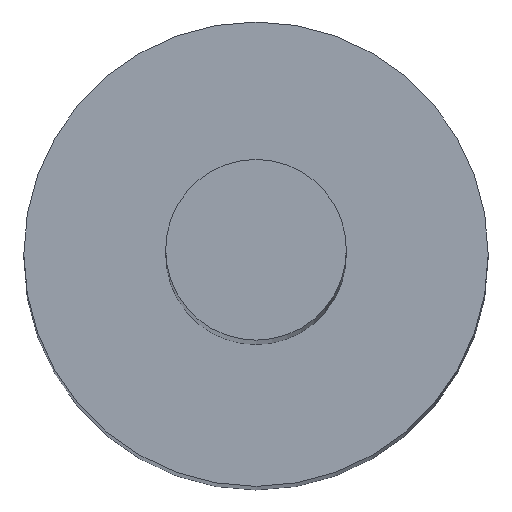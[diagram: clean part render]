
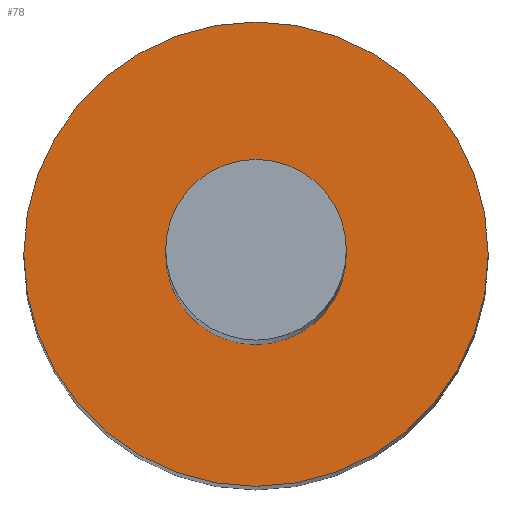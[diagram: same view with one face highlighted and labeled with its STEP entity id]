
A CAD part, top view. The second image highlights one B-rep face of the part: STEP entity #78.
In plain terms, the highlighted planar face has unit normal (0, 0, 1).
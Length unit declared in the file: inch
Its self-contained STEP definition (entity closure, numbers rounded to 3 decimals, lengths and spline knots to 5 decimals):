
#25 = ORIENTED_EDGE ( 'NONE', *, *, #55, .F. ) ;
#45 = ORIENTED_EDGE ( 'NONE', *, *, #188, .T. ) ;
#46 = ORIENTED_EDGE ( 'NONE', *, *, #47, .T. ) ;
#47 = EDGE_CURVE ( 'NONE', #65, #156, #148, .T. ) ;
#48 = EDGE_LOOP ( 'NONE', ( #25, #56 ) ) ;
#55 = EDGE_CURVE ( 'NONE', #74, #77, #228, .T. ) ;
#56 = ORIENTED_EDGE ( 'NONE', *, *, #73, .F. ) ;
#65 = VERTEX_POINT ( 'NONE', #122 ) ;
#71 = EDGE_LOOP ( 'NONE', ( #45, #46 ) ) ;
#73 = EDGE_CURVE ( 'NONE', #77, #74, #221, .T. ) ;
#74 = VERTEX_POINT ( 'NONE', #217 ) ;
#77 = VERTEX_POINT ( 'NONE', #212 ) ;
#78 = ADVANCED_FACE ( 'NONE', ( #211, #210 ), #209, .F. ) ;
#93 = DIRECTION ( 'NONE',  ( 1., 0., 0. ) ) ;
#94 = DIRECTION ( 'NONE',  ( 0., 0., 1. ) ) ;
#95 = CARTESIAN_POINT ( 'NONE',  ( 0., 0., 0. ) ) ;
#96 = AXIS2_PLACEMENT_3D ( 'NONE', #95, #94, #93 ) ;
#116 = CARTESIAN_POINT ( 'NONE',  ( 0., 0., 0. ) ) ;
#122 = CARTESIAN_POINT ( 'NONE',  ( -0.0925, 0., 0. ) ) ;
#128 = DIRECTION ( 'NONE',  ( 0., 0., 1. ) ) ;
#129 = AXIS2_PLACEMENT_3D ( 'NONE', #136, #128, #322 ) ;
#130 = CIRCLE ( 'NONE', #129, 0.0925 ) ;
#136 = CARTESIAN_POINT ( 'NONE',  ( 0., 0., 0. ) ) ;
#137 = CARTESIAN_POINT ( 'NONE',  ( 0.0925, 0., 0. ) ) ;
#148 = CIRCLE ( 'NONE', #96, 0.0925 ) ;
#156 = VERTEX_POINT ( 'NONE', #137 ) ;
#188 = EDGE_CURVE ( 'NONE', #156, #65, #130, .T. ) ;
#204 = DIRECTION ( 'NONE',  ( -1., 0., 0. ) ) ;
#205 = DIRECTION ( 'NONE',  ( 0., 0., -1. ) ) ;
#206 = AXIS2_PLACEMENT_3D ( 'NONE', #208, #205, #204 ) ;
#208 = CARTESIAN_POINT ( 'NONE',  ( 0., 0., 0. ) ) ;
#209 = PLANE ( 'NONE',  #206 ) ;
#210 = FACE_BOUND ( 'NONE', #48, .T. ) ;
#211 = FACE_OUTER_BOUND ( 'NONE', #71, .T. ) ;
#212 = CARTESIAN_POINT ( 'NONE',  ( 0.036, 0., 0. ) ) ;
#217 = CARTESIAN_POINT ( 'NONE',  ( -0.036, 0., 0. ) ) ;
#218 = DIRECTION ( 'NONE',  ( -1., 0., 0. ) ) ;
#219 = DIRECTION ( 'NONE',  ( 0., 0., 1. ) ) ;
#220 = AXIS2_PLACEMENT_3D ( 'NONE', #116, #219, #218 ) ;
#221 = CIRCLE ( 'NONE', #220, 0.036 ) ;
#224 = DIRECTION ( 'NONE',  ( -1., 0., 0. ) ) ;
#225 = DIRECTION ( 'NONE',  ( 0., 0., 1. ) ) ;
#226 = CARTESIAN_POINT ( 'NONE',  ( 0., 0., 0. ) ) ;
#227 = AXIS2_PLACEMENT_3D ( 'NONE', #226, #225, #224 ) ;
#228 = CIRCLE ( 'NONE', #227, 0.036 ) ;
#322 = DIRECTION ( 'NONE',  ( 1., 0., 0. ) ) ;
